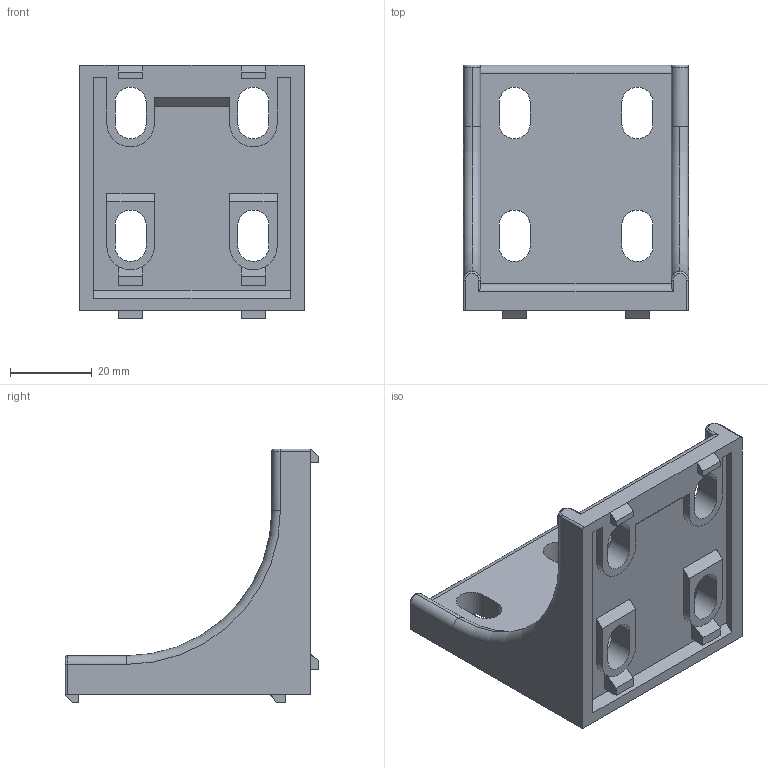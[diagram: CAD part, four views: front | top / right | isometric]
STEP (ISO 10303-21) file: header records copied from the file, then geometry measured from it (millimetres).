
FILE_DESCRIPTION (( 'STEP AP203' ), '1' );
FILE_NAME ('DCB6055-6.STEP', '2018-09-12T07:20:54', ( '' ), ( '' ), 'SwSTEP 2.0', 'SolidWorks 2012', '' );
FILE_SCHEMA (( 'CONFIG_CONTROL_DESIGN' ));
Length unit declared in the file: millimetre
Products named in the file (1): DCB6055-6
Bounding box: 55 x 62 x 62 mm (x, y, z)
Volume: 34411 mm3; surface area: 18427.5 mm2
Topology: 1 solids, 1 shells, 160 faces, 438 edges, 286 vertices
Faces by surface type: plane 104, cylinder 48, torus 8
Entity records: 5221 total; most frequent: CARTESIAN_POINT 1003, ORIENTED_EDGE 876, DIRECTION 840, EDGE_CURVE 438, VECTOR 322, LINE 322, VERTEX_POINT 286, AXIS2_PLACEMENT_3D 259
